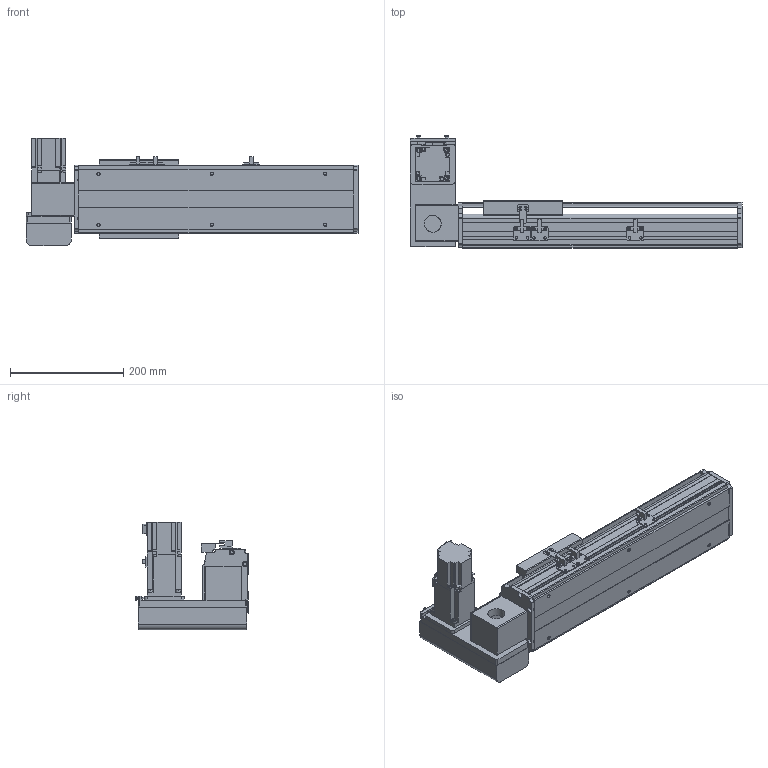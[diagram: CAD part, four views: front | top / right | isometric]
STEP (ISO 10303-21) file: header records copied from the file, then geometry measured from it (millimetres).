
FILE_DESCRIPTION(/* description */ ('STEP AP214'),/* implementation_level */ '2;1');
FILE_NAME(/* name */ 'PBS120-P40-S200-LU-T40-C1-N(0)',/* time_stamp */ '2022-06-06T02:30:05+02:00',/* author */ ('License CC BY-ND 4.0'),/* organization */ ('CADENAS'),/* preprocessor_version */ 'ST-DEVELOPER v18.102',/* originating_system */ 'PARTsolutions',/* authorisation */ ' ');
FILE_SCHEMA (('AUTOMOTIVE_DESIGN {1 0 10303 214 3 1 1}'));
Length unit declared in the file: millimetre
Products named in the file (7): PBS120-P40-S200-LU-T40-C1-N(0); PBS120_sensor; PBS120_plant; PBS120_sliser; T40-p1; PBS120T-LU_motors; PBS120-S200()_body
Assembly tree (8 placements, depth 2):
  PBS120-P40-S200-LU-T40-C1-N(0)
    PBS120_sensor  x3
    PBS120_plant
    PBS120_sliser
    T40-p1
    PBS120T-LU_motors
    PBS120-S200()_body
Bounding box: 586 x 198 x 189.7 mm (x, y, z)
Volume: 3357440.5 mm3; surface area: 589124.7 mm2
Topology: 8 solids, 8 shells, 798 faces, 2106 edges, 1357 vertices
Faces by surface type: plane 539, cylinder 219, cone 38, torus 2
Full cylindrical faces by diameter (mm): 2.459 x6, 3.242 x4, 4 x2, 4.134 x4, 4.5 x10, 4.917 x10, 5.5 x11, 6 x2, 6.6 x1, 7 x2, 8.5 x4, 9 x4, 12 x1, 14 x1, 30 x2, 40 x1, 50 x2
Entity records: 20994 total; most frequent: DIRECTION 3620, CARTESIAN_POINT 3587, ORIENTED_EDGE 3442, EDGE_CURVE 1721, LINE 1228, VECTOR 1228, AXIS2_PLACEMENT_3D 1196, VERTEX_POINT 1163
